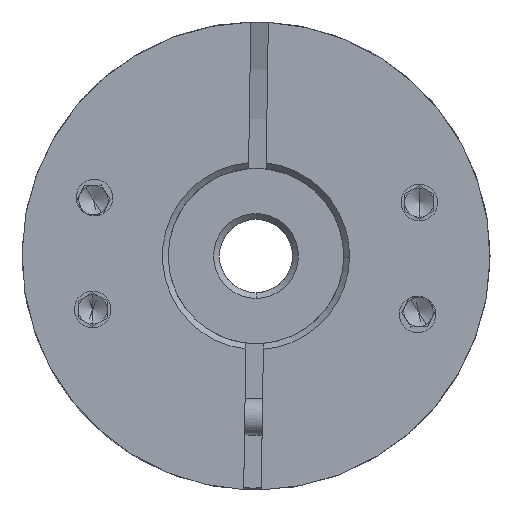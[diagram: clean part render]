
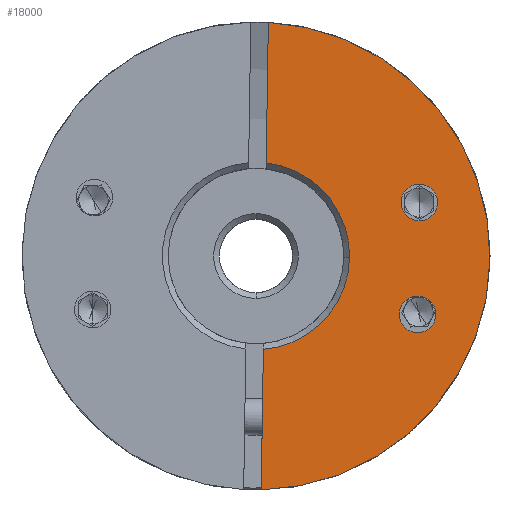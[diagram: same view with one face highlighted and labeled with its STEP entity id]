
A CAD part, front view. The second image highlights one B-rep face of the part: STEP entity #18000.
In plain terms, the highlighted planar face has unit normal (0, -1, 0).
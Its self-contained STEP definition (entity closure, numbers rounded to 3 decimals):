
#249 = AXIS2_PLACEMENT_3D ( 'NONE', #20098, #10895, #8841 ) ;
#347 = CARTESIAN_POINT ( 'NONE',  ( -58.482, -19.411, 6.362 ) ) ;
#501 = ORIENTED_EDGE ( 'NONE', *, *, #15996, .T. ) ;
#820 = CARTESIAN_POINT ( 'NONE',  ( -46.762, -19.411, 3.637 ) ) ;
#1605 = CARTESIAN_POINT ( 'NONE',  ( -52.779, -19.411, -0.097 ) ) ;
#1723 = AXIS2_PLACEMENT_3D ( 'NONE', #8859, #3286, #12895 ) ;
#1850 = EDGE_LOOP ( 'NONE', ( #16271, #10770 ) ) ;
#2266 = EDGE_CURVE ( 'NONE', #13141, #5516, #20935, .T. ) ;
#2858 = ORIENTED_EDGE ( 'NONE', *, *, #20358, .T. ) ;
#2981 = PLANE ( 'NONE',  #11357 ) ;
#3094 = DIRECTION ( 'NONE',  ( 0., 1., 0. ) ) ;
#3286 = DIRECTION ( 'NONE',  ( 0., 1., 0. ) ) ;
#3499 = CARTESIAN_POINT ( 'NONE',  ( -58.487, -19.411, 5.99 ) ) ;
#3748 = VECTOR ( 'NONE', #16544, 1000. ) ;
#3944 = CIRCLE ( 'NONE', #14303, 16. ) ;
#4916 = DIRECTION ( 'NONE',  ( 0., -1., 0. ) ) ;
#5045 = FACE_BOUND ( 'NONE', #22808, .T. ) ;
#5374 = CARTESIAN_POINT ( 'NONE',  ( -59.178, -19.411, 0. ) ) ;
#5516 = VERTEX_POINT ( 'NONE', #1605 ) ;
#5823 = AXIS2_PLACEMENT_3D ( 'NONE', #22557, #13224, #15118 ) ;
#6633 = CARTESIAN_POINT ( 'NONE',  ( -48.128, -19.411, -3.994 ) ) ;
#6739 = CIRCLE ( 'NONE', #20992, 1.25 ) ;
#6955 = VERTEX_POINT ( 'NONE', #20101 ) ;
#7312 = EDGE_CURVE ( 'NONE', #15971, #6955, #22999, .T. ) ;
#8705 = ORIENTED_EDGE ( 'NONE', *, *, #21749, .T. ) ;
#8739 = CIRCLE ( 'NONE', #24177, 1.25 ) ;
#8814 = FACE_BOUND ( 'NONE', #1850, .T. ) ;
#8841 = DIRECTION ( 'NONE',  ( 1., 0., -0.015 ) ) ;
#8843 = ORIENTED_EDGE ( 'NONE', *, *, #2266, .T. ) ;
#8859 = CARTESIAN_POINT ( 'NONE',  ( -48.128, -19.411, -3.994 ) ) ;
#9339 = EDGE_CURVE ( 'NONE', #6955, #21340, #3944, .T. ) ;
#9471 = VERTEX_POINT ( 'NONE', #14946 ) ;
#9530 = VERTEX_POINT ( 'NONE', #13382 ) ;
#10292 = FACE_OUTER_BOUND ( 'NONE', #17928, .T. ) ;
#10443 = DIRECTION ( 'NONE',  ( 1., 0., -0.015 ) ) ;
#10542 = DIRECTION ( 'NONE',  ( 0., -1., 0. ) ) ;
#10596 = ORIENTED_EDGE ( 'NONE', *, *, #23586, .T. ) ;
#10767 = CARTESIAN_POINT ( 'NONE',  ( -46.878, -19.411, -4.013 ) ) ;
#10770 = ORIENTED_EDGE ( 'NONE', *, *, #13694, .T. ) ;
#10895 = DIRECTION ( 'NONE',  ( 0., 1., 0. ) ) ;
#11018 = DIRECTION ( 'NONE',  ( 1., 0., -0.015 ) ) ;
#11021 = LINE ( 'NONE', #3499, #3748 ) ;
#11100 = AXIS2_PLACEMENT_3D ( 'NONE', #17618, #21229, #19499 ) ;
#11357 = AXIS2_PLACEMENT_3D ( 'NONE', #21348, #4916, #10443 ) ;
#11418 = CIRCLE ( 'NONE', #11100, 6.4 ) ;
#11427 = CARTESIAN_POINT ( 'NONE',  ( -58.675, -19.411, -6.38 ) ) ;
#11958 = DIRECTION ( 'NONE',  ( -0.015, 0., -1. ) ) ;
#12692 = CARTESIAN_POINT ( 'NONE',  ( -59.178, -19.411, 0. ) ) ;
#12895 = DIRECTION ( 'NONE',  ( 1., 0., -0.015 ) ) ;
#13089 = CARTESIAN_POINT ( 'NONE',  ( -43.18, -19.411, -0.243 ) ) ;
#13141 = VERTEX_POINT ( 'NONE', #347 ) ;
#13224 = DIRECTION ( 'NONE',  ( 0., 1., 0. ) ) ;
#13382 = CARTESIAN_POINT ( 'NONE',  ( -58.336, -19.411, 15.978 ) ) ;
#13586 = CARTESIAN_POINT ( 'NONE',  ( -58.487, -19.411, 5.99 ) ) ;
#13694 = EDGE_CURVE ( 'NONE', #16594, #18105, #6739, .T. ) ;
#14303 = AXIS2_PLACEMENT_3D ( 'NONE', #5374, #14460, #11018 ) ;
#14460 = DIRECTION ( 'NONE',  ( 0., -1., 0. ) ) ;
#14946 = CARTESIAN_POINT ( 'NONE',  ( -49.261, -19.411, 3.675 ) ) ;
#15118 = DIRECTION ( 'NONE',  ( 1., 0., -0.015 ) ) ;
#15412 = VECTOR ( 'NONE', #11958, 1000. ) ;
#15665 = DIRECTION ( 'NONE',  ( 0., 1., 0. ) ) ;
#15971 = VERTEX_POINT ( 'NONE', #11427 ) ;
#15992 = CARTESIAN_POINT ( 'NONE',  ( -48.012, -19.411, 3.656 ) ) ;
#15996 = EDGE_CURVE ( 'NONE', #21542, #9471, #22824, .T. ) ;
#16271 = ORIENTED_EDGE ( 'NONE', *, *, #19268, .T. ) ;
#16544 = DIRECTION ( 'NONE',  ( -0.015, 0., -1. ) ) ;
#16594 = VERTEX_POINT ( 'NONE', #10767 ) ;
#17547 = AXIS2_PLACEMENT_3D ( 'NONE', #12692, #10542, #22019 ) ;
#17618 = CARTESIAN_POINT ( 'NONE',  ( -59.178, -19.411, 0. ) ) ;
#17692 = DIRECTION ( 'NONE',  ( 1., 0., -0.015 ) ) ;
#17928 = EDGE_LOOP ( 'NONE', ( #23040, #8843, #2858, #23733, #21257, #8705 ) ) ;
#18000 = ADVANCED_FACE ( 'NONE', ( #10292, #5045, #8814 ), #2981, .T. ) ;
#18105 = VERTEX_POINT ( 'NONE', #22086 ) ;
#19268 = EDGE_CURVE ( 'NONE', #18105, #16594, #21941, .T. ) ;
#19499 = DIRECTION ( 'NONE',  ( 1., 0., -0.015 ) ) ;
#20098 = CARTESIAN_POINT ( 'NONE',  ( -59.178, -19.411, 0. ) ) ;
#20101 = CARTESIAN_POINT ( 'NONE',  ( -58.821, -19.411, -15.996 ) ) ;
#20358 = EDGE_CURVE ( 'NONE', #5516, #15971, #11418, .T. ) ;
#20935 = CIRCLE ( 'NONE', #249, 6.4 ) ;
#20992 = AXIS2_PLACEMENT_3D ( 'NONE', #6633, #3094, #23421 ) ;
#21013 = CIRCLE ( 'NONE', #17547, 16. ) ;
#21229 = DIRECTION ( 'NONE',  ( 0., 1., 0. ) ) ;
#21257 = ORIENTED_EDGE ( 'NONE', *, *, #9339, .T. ) ;
#21340 = VERTEX_POINT ( 'NONE', #13089 ) ;
#21348 = CARTESIAN_POINT ( 'NONE',  ( -59.178, -19.411, 0. ) ) ;
#21542 = VERTEX_POINT ( 'NONE', #820 ) ;
#21749 = EDGE_CURVE ( 'NONE', #21340, #9530, #21013, .T. ) ;
#21941 = CIRCLE ( 'NONE', #1723, 1.25 ) ;
#22019 = DIRECTION ( 'NONE',  ( 1., 0., -0.015 ) ) ;
#22086 = CARTESIAN_POINT ( 'NONE',  ( -49.378, -19.411, -3.975 ) ) ;
#22557 = CARTESIAN_POINT ( 'NONE',  ( -48.012, -19.411, 3.656 ) ) ;
#22808 = EDGE_LOOP ( 'NONE', ( #10596, #501 ) ) ;
#22824 = CIRCLE ( 'NONE', #5823, 1.25 ) ;
#22999 = LINE ( 'NONE', #13586, #15412 ) ;
#23040 = ORIENTED_EDGE ( 'NONE', *, *, #23898, .T. ) ;
#23421 = DIRECTION ( 'NONE',  ( 1., 0., -0.015 ) ) ;
#23586 = EDGE_CURVE ( 'NONE', #9471, #21542, #8739, .T. ) ;
#23733 = ORIENTED_EDGE ( 'NONE', *, *, #7312, .T. ) ;
#23898 = EDGE_CURVE ( 'NONE', #9530, #13141, #11021, .T. ) ;
#24177 = AXIS2_PLACEMENT_3D ( 'NONE', #15992, #15665, #17692 ) ;
